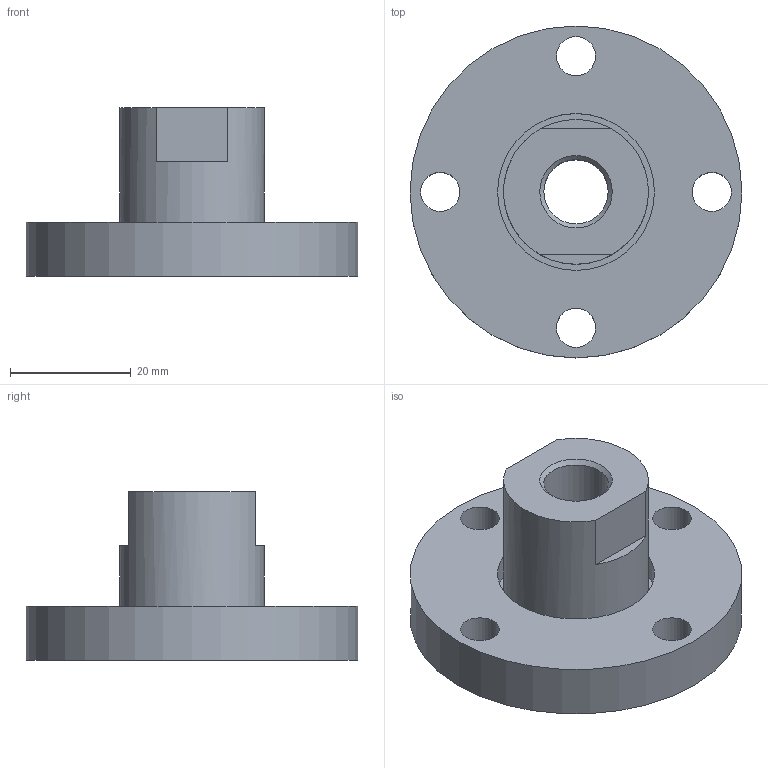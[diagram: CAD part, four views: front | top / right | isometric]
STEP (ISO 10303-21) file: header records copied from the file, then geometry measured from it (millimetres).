
FILE_DESCRIPTION( ( 'STEP AP214' ), '1' );
FILE_NAME( 'U:/Etudes/Top Solid/BIBLIO 3D AVM/TOP/PNEUMATIQUE/GUIDAGES/Accessoires/Accouplements/5133005.step', '2005-05-27T08:29:08', ( ' ' ), ( ' ' ), 'XStep 1.0', ' ', ' ' );
FILE_SCHEMA( ( 'automotive_design' ) );
Length unit declared in the file: metre
Products named in the file (1): 1
Bounding box: 55 x 55 x 28 mm (x, y, z)
Volume: 25745.8 mm3; surface area: 9573.5 mm2
Topology: 1 solids, 1 shells, 18 faces, 40 edges, 26 vertices
Faces by surface type: cylinder 9, plane 8, cone 1
Full cylindrical faces by diameter (mm): 6.5 x4, 10.647 x2, 24 x1, 26 x1, 55 x1
Entity records: 630 total; most frequent: DIRECTION 88, CARTESIAN_POINT 73, ORIENTED_EDGE 58, AXIS2_PLACEMENT_3D 40, EDGE_LOOP 40, EDGE_CURVE 29, FACE_OUTER_BOUND 27, VERTEX_POINT 25
